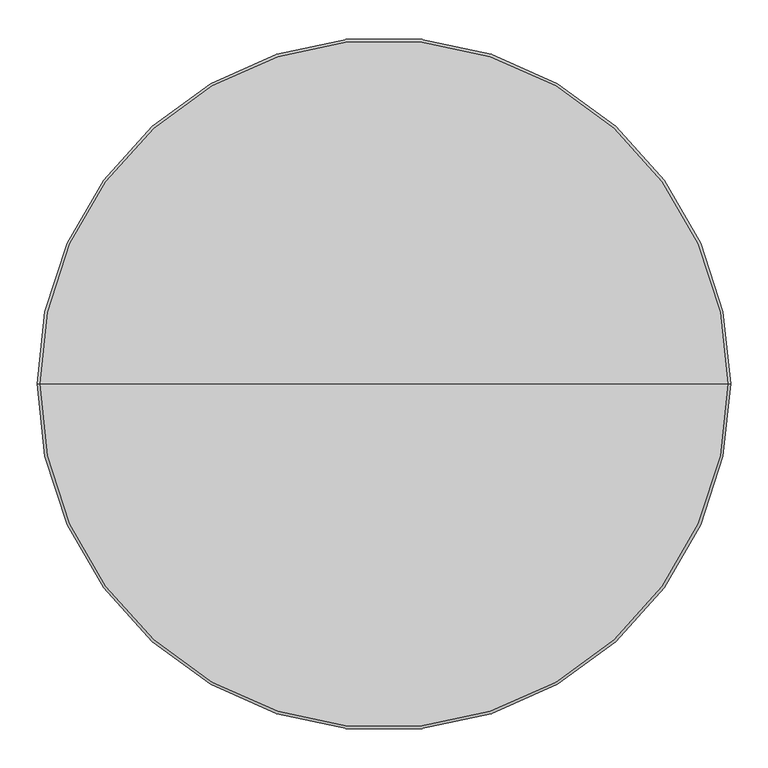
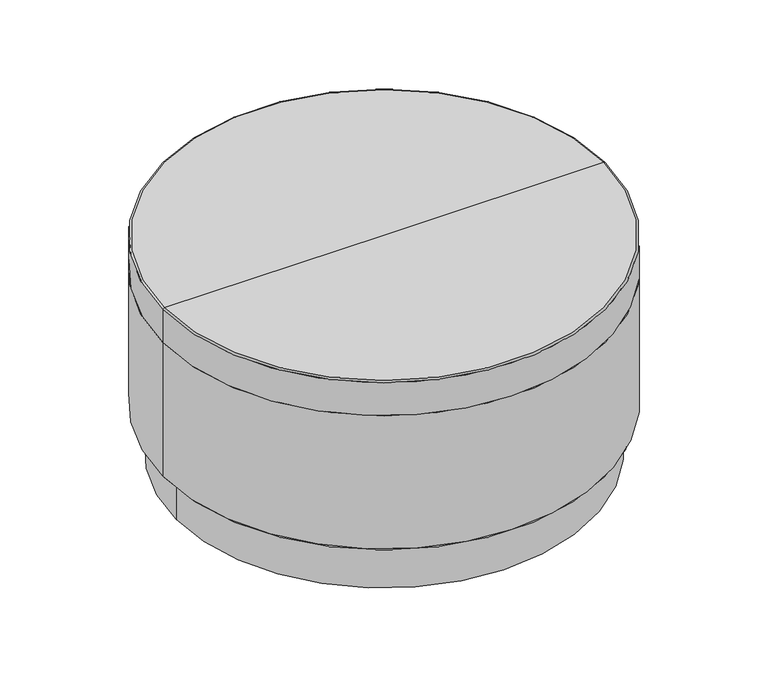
"""IFC4 building model written with IfcOpenShell, lengths in millimetres: furniture geometry, StanceHC-Drum_Table-Plinth_Base : 3-DRT36D20-U-PL."""

from ifc_helpers import new_model, si_unit, point, frame, frame_2d, origin, origin_with_axes, place, context, project, spatial, circle_curve, ellipse_curve, trimmed, segment, composite_curve, outline, extrude, source, transform, mapped, element, save
from ifc_brep_helpers import plane_surface, cylinder_surface, revolved_surface, advanced_brep


def furniture_5234770c(model_context):
    return source(origin(), model_context, "Body", "SolidModel", [
        extrude(outline(composite_curve([segment(trimmed(circle_curve(frame_2d((0.0, 402.5164845)), 12.7), [point((-12.7, 402.5164845))], [point((12.7, 402.5164845))], False, "CARTESIAN"), True, "CONTINUOUS"), segment(trimmed(circle_curve(frame_2d((0.0, 402.5164845)), 12.7), [point((12.7, 402.5164845))], [point((-12.7, 402.5164845))], False, "CARTESIAN"), True, "CONTINUOUS")], self_intersect=False)), origin_with_axes(), (0.0, 0.0, 1.0), 4.7625),
        extrude(outline(composite_curve([segment(trimmed(circle_curve(frame_2d((0.0, -402.5164845)), 12.7), [point((-12.7, -402.5164845))], [point((12.7, -402.5164845))], False, "CARTESIAN"), True, "CONTINUOUS"), segment(trimmed(circle_curve(frame_2d((0.0, -402.5164845)), 12.7), [point((12.7, -402.5164845))], [point((-12.7, -402.5164845))], False, "CARTESIAN"), True, "CONTINUOUS")], self_intersect=False)), origin_with_axes(), (0.0, 0.0, 1.0), 4.7625),
        extrude(outline(composite_curve([segment(trimmed(circle_curve(frame_2d((406.3996404, 0.0)), 12.7), [point((393.6996404, 0.0))], [point((419.0996404, 0.0))], False, "CARTESIAN"), True, "CONTINUOUS"), segment(trimmed(circle_curve(frame_2d((406.3996404, 0.0)), 12.7), [point((419.0996404, 0.0))], [point((393.6996404, 0.0))], False, "CARTESIAN"), True, "CONTINUOUS")], self_intersect=False)), origin_with_axes(), (0.0, 0.0, 1.0), 4.7625),
        extrude(outline(composite_curve([segment(trimmed(circle_curve(frame_2d((-406.3996404, 0.0)), 12.7), [point((-419.0996404, 0.0))], [point((-393.6996404, 0.0))], False, "CARTESIAN"), True, "CONTINUOUS"), segment(trimmed(circle_curve(frame_2d((-406.3996404, 0.0)), 12.7), [point((-393.6996404, 0.0))], [point((-419.0996404, 0.0))], False, "CARTESIAN"), True, "CONTINUOUS")], self_intersect=False)), origin_with_axes(), (0.0, 0.0, 1.0), 4.7625),
        advanced_brep(
        [(-458.7542756, 0.0, 106.3625), (458.7542756, 0.0, 106.3625), (434.9746404, 0.0, 106.3625), (-434.9746404, 0.0, 106.3625), (-458.7542756, 0.0, 111.125), (458.7542756, 0.0, 111.125), (0.0, 0.0, 111.125), (-434.9746404, 0.0, 4.7625), (434.9746404, 0.0, 4.7625), (0.0, 0.0, 4.7625)],
        [
            (0, 1, circle_curve(frame((0.0, 0.0, 106.3625), z_axis=(0.0, 0.0, -1.0), x_axis=(1.0, 0.0, 0.0)), 458.7542756)),
            (1, 2),
            (2, 3, circle_curve(frame((0.0, 0.0, 106.3625), z_axis=(0.0, 0.0, 1.0), x_axis=(1.0, 0.0, 0.0)), 434.9746404)),
            (3, 0),
            (1, 0, circle_curve(frame((0.0, 0.0, 106.3625), z_axis=(0.0, 0.0, -1.0), x_axis=(1.0, 0.0, 0.0)), 458.7542756)),
            (3, 2, circle_curve(frame((0.0, 0.0, 106.3625), z_axis=(0.0, 0.0, 1.0), x_axis=(1.0, 0.0, 0.0)), 434.9746404)),
            (4, 5, circle_curve(frame((0.0, 0.0, 111.125), z_axis=(0.0, 0.0, -1.0), x_axis=(1.0, 0.0, 0.0)), 458.7542756)),
            (5, 1, circle_curve(frame((458.7542756, 0.0, 108.74375), z_axis=(0.0, 1.0, 0.0), x_axis=(1.0, 0.0, 0.0)), 2.38125)),
            (0, 4, circle_curve(frame((-458.7542756, 0.0, 108.74375), z_axis=(0.0, 1.0, 0.0), x_axis=(-1.0, 0.0, 0.0)), 2.38125)),
            (5, 4, circle_curve(frame((0.0, 0.0, 111.125), z_axis=(0.0, 0.0, -1.0), x_axis=(1.0, 0.0, 0.0)), 458.7542756)),
            (6, 5),
            (4, 6),
            (7, 8, circle_curve(frame((0.0, 0.0, 4.7625), z_axis=(0.0, 0.0, -1.0), x_axis=(1.0, 0.0, 0.0)), 434.9746404)),
            (8, 9),
            (9, 7),
            (8, 7, circle_curve(frame((0.0, 0.0, 4.7625), z_axis=(0.0, 0.0, -1.0), x_axis=(1.0, 0.0, 0.0)), 434.9746404)),
            (2, 8),
            (7, 3),
        ],
        [
            plane_surface(frame((0.0, 0.0, 106.3625), z_axis=(0.0, 0.0, -1.0), x_axis=(1.0, 0.0, 0.0))),
            revolved_surface(trimmed(ellipse_curve(frame((458.7542756, 0.0, 108.74375), z_axis=(0.0, -1.0, 0.0), x_axis=(1.0, 0.0, 0.0)), 2.38125, 2.38125), [point((458.7542756, 0.0, 106.3625))], [point((458.7542756, 0.0, 111.125))], True, "CARTESIAN"), (0.0, 0.0, 165.1), (0.0, 0.0, 1.0)),
            plane_surface(frame((0.0, 0.0, 111.125), z_axis=(0.0, 0.0, 1.0), x_axis=(1.0, 0.0, 0.0))),
            plane_surface(frame((0.0, 0.0, 4.7625), z_axis=(0.0, 0.0, -1.0), x_axis=(1.0, 0.0, 0.0))),
            cylinder_surface(frame((0.0, 0.0, 165.1), z_axis=(0.0, 0.0, 1.0), x_axis=(1.0, 0.0, 0.0)), 434.9746404),
        ],
        [
            (0, [[1, 2, 3, 4]]),
            (0, [[5, -4, 6, -2]]),
            (1, [[7, 8, -1, 9]]),
            (1, [[10, -9, -5, -8]]),
            (2, [[11, -7, 12]]),
            (2, [[-12, -10, -11]]),
            (3, [[13, 14, 15]]),
            (3, [[16, -15, -14]]),
            (4, [[-3, 17, -13, 18]]),
            (4, [[-6, -18, -16, -17]]),
        ],
    ),
        advanced_brep(
        [(0.0, 0.0, 406.4), (463.55, 0.0, 406.4), (-463.55, 0.0, 406.4), (-463.55, 0.0, 111.125), (463.55, 0.0, 111.125), (0.0, 0.0, 111.125)],
        [
            (0, 1),
            (1, 2, circle_curve(frame((0.0, 0.0, 406.4), z_axis=(0.0, 0.0, 1.0), x_axis=(1.0, 0.0, 0.0)), 463.55)),
            (2, 0),
            (2, 1, circle_curve(frame((0.0, 0.0, 406.4), z_axis=(0.0, 0.0, 1.0), x_axis=(1.0, 0.0, 0.0)), 463.55)),
            (3, 4, circle_curve(frame((0.0, 0.0, 111.125), z_axis=(0.0, 0.0, -1.0), x_axis=(1.0, 0.0, 0.0)), 463.55)),
            (4, 5),
            (5, 3),
            (4, 3, circle_curve(frame((0.0, 0.0, 111.125), z_axis=(0.0, 0.0, -1.0), x_axis=(1.0, 0.0, 0.0)), 463.55)),
            (1, 4),
            (3, 2),
        ],
        [
            plane_surface(frame((0.0, 0.0, 406.4), z_axis=(0.0, 0.0, 1.0), x_axis=(1.0, 0.0, 0.0))),
            plane_surface(frame((0.0, 0.0, 111.125), z_axis=(0.0, 0.0, -1.0), x_axis=(1.0, 0.0, 0.0))),
            cylinder_surface(frame((0.0, 0.0, 558.8), z_axis=(0.0, 0.0, 1.0), x_axis=(1.0, 0.0, 0.0)), 463.55),
        ],
        [
            (0, [[1, 2, 3]]),
            (0, [[-3, 4, -1]]),
            (1, [[5, 6, 7]]),
            (1, [[8, -7, -6]]),
            (2, [[-2, 9, -5, 10]]),
            (2, [[-4, -10, -8, -9]]),
        ],
    ),
        advanced_brep(
        [(-463.55, 0.0, 406.4), (463.55, 0.0, 406.4), (0.0, 0.0, 406.4), (-463.55, 0.0, 479.4764933), (463.55, 0.0, 479.4764933), (-460.4264933, 0.0, 482.6), (460.4264933, 0.0, 482.6), (0.0, 0.0, 482.6)],
        [
            (0, 1, circle_curve(frame((0.0, 0.0, 406.4), z_axis=(0.0, 0.0, -1.0), x_axis=(1.0, 0.0, 0.0)), 463.55)),
            (1, 2),
            (2, 0),
            (1, 0, circle_curve(frame((0.0, 0.0, 406.4), z_axis=(0.0, 0.0, -1.0), x_axis=(1.0, 0.0, 0.0)), 463.55)),
            (3, 4, circle_curve(frame((0.0, 0.0, 479.4764933), z_axis=(0.0, 0.0, -1.0), x_axis=(1.0, 0.0, 0.0)), 463.55)),
            (4, 1),
            (0, 3),
            (4, 3, circle_curve(frame((0.0, 0.0, 479.4764933), z_axis=(0.0, 0.0, -1.0), x_axis=(1.0, 0.0, 0.0)), 463.55)),
            (5, 6, circle_curve(frame((0.0, 0.0, 482.6), z_axis=(0.0, 0.0, -1.0), x_axis=(1.0, 0.0, 0.0)), 460.4264933)),
            (6, 4, circle_curve(frame((460.4264933, 0.0, 479.4764933), z_axis=(0.0, 1.0, 0.0), x_axis=(1.0, 0.0, 0.0)), 3.1235067)),
            (3, 5, circle_curve(frame((-460.4264933, 0.0, 479.4764933), z_axis=(0.0, 1.0, 0.0), x_axis=(-1.0, 0.0, 0.0)), 3.1235067)),
            (6, 5, circle_curve(frame((0.0, 0.0, 482.6), z_axis=(0.0, 0.0, -1.0), x_axis=(1.0, 0.0, 0.0)), 460.4264933)),
            (7, 6),
            (5, 7),
        ],
        [
            plane_surface(frame((0.0, 0.0, 406.4), z_axis=(0.0, 0.0, -1.0), x_axis=(1.0, 0.0, 0.0))),
            cylinder_surface(frame((0.0, 0.0, 577.85), z_axis=(0.0, 0.0, 1.0), x_axis=(1.0, 0.0, 0.0)), 463.55),
            revolved_surface(trimmed(ellipse_curve(frame((460.4264933, 0.0, 479.4764933), z_axis=(0.0, -1.0, 0.0), x_axis=(1.0, 0.0, 0.0)), 3.1235067, 3.1235067), [point((463.55, 0.0, 479.4764933))], [point((460.4264933, 0.0, 482.6))], True, "CARTESIAN"), (0.0, 0.0, 577.85), (0.0, 0.0, 1.0)),
            plane_surface(frame((0.0, 0.0, 482.6), z_axis=(0.0, 0.0, 1.0), x_axis=(1.0, 0.0, 0.0))),
        ],
        [
            (0, [[1, 2, 3]]),
            (0, [[4, -3, -2]]),
            (1, [[5, 6, -1, 7]]),
            (1, [[8, -7, -4, -6]]),
            (2, [[9, 10, -5, 11]]),
            (2, [[12, -11, -8, -10]]),
            (3, [[13, -9, 14]]),
            (3, [[-14, -12, -13]]),
        ],
    ),
    ])


if __name__ == "__main__":
    model = new_model("IFC4")
    model_context = context("Model", 3, world=origin())
    ifc_project = project(units=[si_unit("LENGTHUNIT", "METRE", prefix="MILLI")], contexts=[model_context])
    site = spatial("IfcSite", under=ifc_project)
    building = spatial("IfcBuilding", under=site)
    placement = place(None, origin())
    furniture_shape = furniture_5234770c(model_context)
    element("IfcFurniture", 1, ObjectType="StanceHC-Drum_Table-Plinth_Base : 3-DRT36D20-U-PL", at=placement, inside=building, context=model_context, shape_type="MappedRepresentation", body=[
        mapped(furniture_shape, transform((0.0, 0.0, 0.0), x_axis=(1.0, 0.0, 0.0), y_axis=(0.0, 1.0, 0.0), z_axis=(0.0, 0.0, 1.0))),
    ])
    save(model, "model.ifc")
